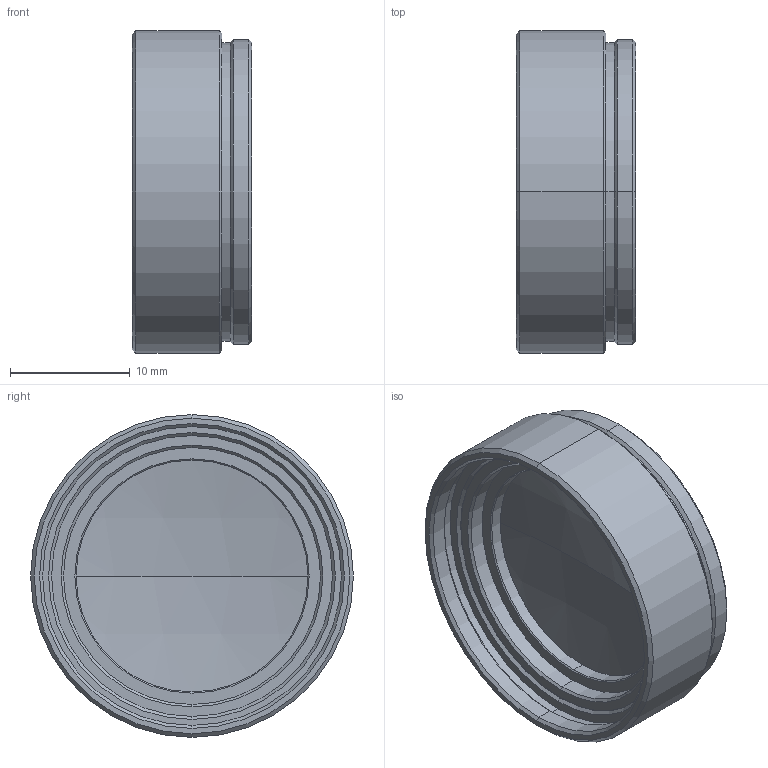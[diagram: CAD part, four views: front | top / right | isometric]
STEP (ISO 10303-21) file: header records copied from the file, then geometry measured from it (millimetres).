
FILE_DESCRIPTION (( 'STEP AP203' ), '1' );
FILE_NAME ('VSZ-04X.STEP', '2019-11-19T00:48:45', ( '' ), ( '' ), 'SwSTEP 2.0', 'SolidWorks 2018', '' );
FILE_SCHEMA (( 'CONFIG_CONTROL_DESIGN' ));
Length unit declared in the file: millimetre
Products named in the file (1): VSZ-04X
Bounding box: 10 x 27 x 27 mm (x, y, z)
Volume: 3039.1 mm3; surface area: 2384.5 mm2
Topology: 1 solids, 1 shells, 48 faces, 98 edges, 58 vertices
Faces by surface type: cone 20, cylinder 18, plane 6, sphere 4
Entity records: 1343 total; most frequent: DIRECTION 256, CARTESIAN_POINT 205, ORIENTED_EDGE 196, AXIS2_PLACEMENT_3D 109, EDGE_CURVE 98, CIRCLE 60, VERTEX_POINT 58, EDGE_LOOP 54
